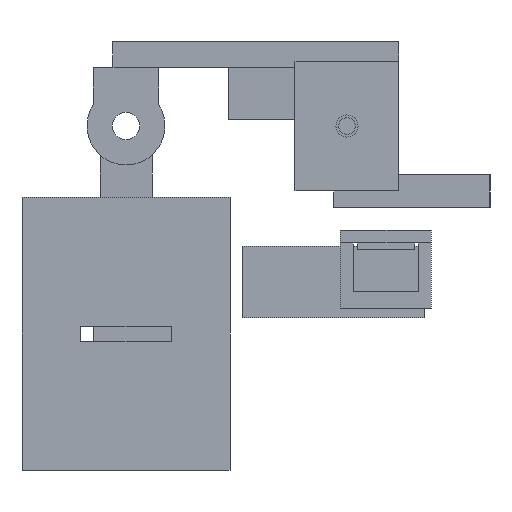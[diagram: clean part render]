
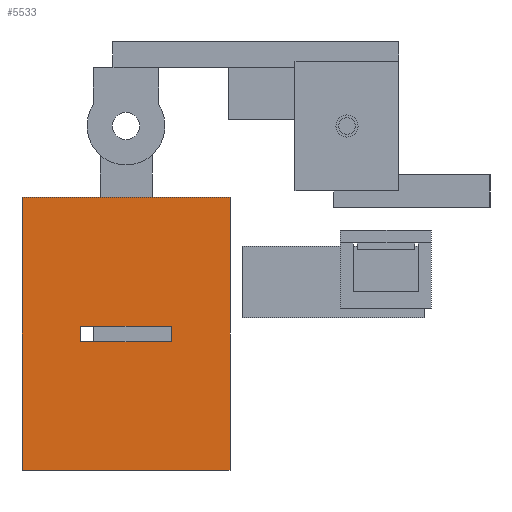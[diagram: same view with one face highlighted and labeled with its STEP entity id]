
A CAD part, left-side view. The second image highlights one B-rep face of the part: STEP entity #5533.
In plain terms, the highlighted planar face has unit normal (-1, 0, 0).
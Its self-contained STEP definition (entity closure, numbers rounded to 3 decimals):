
#5533 = ADVANCED_FACE('',(#5534,#5653),#5548,.F.);
#5534 = FACE_BOUND('',#5535,.F.);
#5535 = EDGE_LOOP('',(#5536,#5571,#5599,#5627));
#5536 = ORIENTED_EDGE('',*,*,#5537,.F.);
#5537 = EDGE_CURVE('',#5538,#5540,#5542,.T.);
#5538 = VERTEX_POINT('',#5539);
#5539 = CARTESIAN_POINT('',(5.,18.,-13.));
#5540 = VERTEX_POINT('',#5541);
#5541 = CARTESIAN_POINT('',(5.,18.,29.));
#5542 = SURFACE_CURVE('',#5543,(#5547,#5559),.PCURVE_S1.);
#5543 = LINE('',#5544,#5545);
#5544 = CARTESIAN_POINT('',(5.,18.,-13.));
#5545 = VECTOR('',#5546,1.);
#5546 = DIRECTION('',(0.,0.,1.));
#5547 = PCURVE('',#5548,#5553);
#5548 = PLANE('',#5549);
#5549 = AXIS2_PLACEMENT_3D('',#5550,#5551,#5552);
#5550 = CARTESIAN_POINT('',(5.,18.,-13.));
#5551 = DIRECTION('',(1.,0.,0.));
#5552 = DIRECTION('',(0.,0.,1.));
#5553 = DEFINITIONAL_REPRESENTATION('',(#5554),#5558);
#5554 = LINE('',#5555,#5556);
#5555 = CARTESIAN_POINT('',(0.,0.));
#5556 = VECTOR('',#5557,1.);
#5557 = DIRECTION('',(1.,0.));
#5558 = ( GEOMETRIC_REPRESENTATION_CONTEXT(2) 
PARAMETRIC_REPRESENTATION_CONTEXT() REPRESENTATION_CONTEXT('2D SPACE',''
  ) );
#5559 = PCURVE('',#5560,#5565);
#5560 = PLANE('',#5561);
#5561 = AXIS2_PLACEMENT_3D('',#5562,#5563,#5564);
#5562 = CARTESIAN_POINT('',(5.,18.,-13.));
#5563 = DIRECTION('',(0.,1.,0.));
#5564 = DIRECTION('',(0.,0.,1.));
#5565 = DEFINITIONAL_REPRESENTATION('',(#5566),#5570);
#5566 = LINE('',#5567,#5568);
#5567 = CARTESIAN_POINT('',(0.,0.));
#5568 = VECTOR('',#5569,1.);
#5569 = DIRECTION('',(1.,0.));
#5570 = ( GEOMETRIC_REPRESENTATION_CONTEXT(2) 
PARAMETRIC_REPRESENTATION_CONTEXT() REPRESENTATION_CONTEXT('2D SPACE',''
  ) );
#5571 = ORIENTED_EDGE('',*,*,#5572,.T.);
#5572 = EDGE_CURVE('',#5538,#5573,#5575,.T.);
#5573 = VERTEX_POINT('',#5574);
#5574 = CARTESIAN_POINT('',(5.,50.,-13.));
#5575 = SURFACE_CURVE('',#5576,(#5580,#5587),.PCURVE_S1.);
#5576 = LINE('',#5577,#5578);
#5577 = CARTESIAN_POINT('',(5.,18.,-13.));
#5578 = VECTOR('',#5579,1.);
#5579 = DIRECTION('',(0.,1.,0.));
#5580 = PCURVE('',#5548,#5581);
#5581 = DEFINITIONAL_REPRESENTATION('',(#5582),#5586);
#5582 = LINE('',#5583,#5584);
#5583 = CARTESIAN_POINT('',(0.,0.));
#5584 = VECTOR('',#5585,1.);
#5585 = DIRECTION('',(0.,-1.));
#5586 = ( GEOMETRIC_REPRESENTATION_CONTEXT(2) 
PARAMETRIC_REPRESENTATION_CONTEXT() REPRESENTATION_CONTEXT('2D SPACE',''
  ) );
#5587 = PCURVE('',#5588,#5593);
#5588 = PLANE('',#5589);
#5589 = AXIS2_PLACEMENT_3D('',#5590,#5591,#5592);
#5590 = CARTESIAN_POINT('',(5.,18.,-13.));
#5591 = DIRECTION('',(0.,0.,1.));
#5592 = DIRECTION('',(1.,0.,0.));
#5593 = DEFINITIONAL_REPRESENTATION('',(#5594),#5598);
#5594 = LINE('',#5595,#5596);
#5595 = CARTESIAN_POINT('',(0.,0.));
#5596 = VECTOR('',#5597,1.);
#5597 = DIRECTION('',(0.,1.));
#5598 = ( GEOMETRIC_REPRESENTATION_CONTEXT(2) 
PARAMETRIC_REPRESENTATION_CONTEXT() REPRESENTATION_CONTEXT('2D SPACE',''
  ) );
#5599 = ORIENTED_EDGE('',*,*,#5600,.T.);
#5600 = EDGE_CURVE('',#5573,#5601,#5603,.T.);
#5601 = VERTEX_POINT('',#5602);
#5602 = CARTESIAN_POINT('',(5.,50.,29.));
#5603 = SURFACE_CURVE('',#5604,(#5608,#5615),.PCURVE_S1.);
#5604 = LINE('',#5605,#5606);
#5605 = CARTESIAN_POINT('',(5.,50.,-13.));
#5606 = VECTOR('',#5607,1.);
#5607 = DIRECTION('',(0.,0.,1.));
#5608 = PCURVE('',#5548,#5609);
#5609 = DEFINITIONAL_REPRESENTATION('',(#5610),#5614);
#5610 = LINE('',#5611,#5612);
#5611 = CARTESIAN_POINT('',(0.,-32.));
#5612 = VECTOR('',#5613,1.);
#5613 = DIRECTION('',(1.,0.));
#5614 = ( GEOMETRIC_REPRESENTATION_CONTEXT(2) 
PARAMETRIC_REPRESENTATION_CONTEXT() REPRESENTATION_CONTEXT('2D SPACE',''
  ) );
#5615 = PCURVE('',#5616,#5621);
#5616 = PLANE('',#5617);
#5617 = AXIS2_PLACEMENT_3D('',#5618,#5619,#5620);
#5618 = CARTESIAN_POINT('',(5.,50.,-13.));
#5619 = DIRECTION('',(0.,1.,0.));
#5620 = DIRECTION('',(0.,0.,1.));
#5621 = DEFINITIONAL_REPRESENTATION('',(#5622),#5626);
#5622 = LINE('',#5623,#5624);
#5623 = CARTESIAN_POINT('',(0.,0.));
#5624 = VECTOR('',#5625,1.);
#5625 = DIRECTION('',(1.,0.));
#5626 = ( GEOMETRIC_REPRESENTATION_CONTEXT(2) 
PARAMETRIC_REPRESENTATION_CONTEXT() REPRESENTATION_CONTEXT('2D SPACE',''
  ) );
#5627 = ORIENTED_EDGE('',*,*,#5628,.F.);
#5628 = EDGE_CURVE('',#5540,#5601,#5629,.T.);
#5629 = SURFACE_CURVE('',#5630,(#5634,#5641),.PCURVE_S1.);
#5630 = LINE('',#5631,#5632);
#5631 = CARTESIAN_POINT('',(5.,18.,29.));
#5632 = VECTOR('',#5633,1.);
#5633 = DIRECTION('',(0.,1.,0.));
#5634 = PCURVE('',#5548,#5635);
#5635 = DEFINITIONAL_REPRESENTATION('',(#5636),#5640);
#5636 = LINE('',#5637,#5638);
#5637 = CARTESIAN_POINT('',(42.,0.));
#5638 = VECTOR('',#5639,1.);
#5639 = DIRECTION('',(0.,-1.));
#5640 = ( GEOMETRIC_REPRESENTATION_CONTEXT(2) 
PARAMETRIC_REPRESENTATION_CONTEXT() REPRESENTATION_CONTEXT('2D SPACE',''
  ) );
#5641 = PCURVE('',#5642,#5647);
#5642 = PLANE('',#5643);
#5643 = AXIS2_PLACEMENT_3D('',#5644,#5645,#5646);
#5644 = CARTESIAN_POINT('',(5.,18.,29.));
#5645 = DIRECTION('',(0.,0.,1.));
#5646 = DIRECTION('',(1.,0.,0.));
#5647 = DEFINITIONAL_REPRESENTATION('',(#5648),#5652);
#5648 = LINE('',#5649,#5650);
#5649 = CARTESIAN_POINT('',(0.,0.));
#5650 = VECTOR('',#5651,1.);
#5651 = DIRECTION('',(0.,1.));
#5652 = ( GEOMETRIC_REPRESENTATION_CONTEXT(2) 
PARAMETRIC_REPRESENTATION_CONTEXT() REPRESENTATION_CONTEXT('2D SPACE',''
  ) );
#5653 = FACE_BOUND('',#5654,.F.);
#5654 = EDGE_LOOP('',(#5655,#5683,#5709,#5735));
#5655 = ORIENTED_EDGE('',*,*,#5656,.T.);
#5656 = EDGE_CURVE('',#5657,#5659,#5661,.T.);
#5657 = VERTEX_POINT('',#5658);
#5658 = CARTESIAN_POINT('',(5.,41.,6.8));
#5659 = VERTEX_POINT('',#5660);
#5660 = CARTESIAN_POINT('',(5.,27.,6.8));
#5661 = SURFACE_CURVE('',#5662,(#5666,#5672),.PCURVE_S1.);
#5662 = LINE('',#5663,#5664);
#5663 = CARTESIAN_POINT('',(5.,22.5,6.8));
#5664 = VECTOR('',#5665,1.);
#5665 = DIRECTION('',(0.,-1.,0.));
#5666 = PCURVE('',#5548,#5667);
#5667 = DEFINITIONAL_REPRESENTATION('',(#5668),#5671);
#5668 = B_SPLINE_CURVE_WITH_KNOTS('',1,(#5669,#5670),.UNSPECIFIED.,.F.,
  .F.,(2,2),(-18.5,-4.5),.PIECEWISE_BEZIER_KNOTS.);
#5669 = CARTESIAN_POINT('',(19.8,-23.));
#5670 = CARTESIAN_POINT('',(19.8,-9.));
#5671 = ( GEOMETRIC_REPRESENTATION_CONTEXT(2) 
PARAMETRIC_REPRESENTATION_CONTEXT() REPRESENTATION_CONTEXT('2D SPACE',''
  ) );
#5672 = PCURVE('',#5673,#5678);
#5673 = PLANE('',#5674);
#5674 = AXIS2_PLACEMENT_3D('',#5675,#5676,#5677);
#5675 = CARTESIAN_POINT('',(4.,27.,6.8));
#5676 = DIRECTION('',(0.,0.,1.));
#5677 = DIRECTION('',(1.,0.,0.));
#5678 = DEFINITIONAL_REPRESENTATION('',(#5679),#5682);
#5679 = B_SPLINE_CURVE_WITH_KNOTS('',1,(#5680,#5681),.UNSPECIFIED.,.F.,
  .F.,(2,2),(-18.5,-4.5),.PIECEWISE_BEZIER_KNOTS.);
#5680 = CARTESIAN_POINT('',(1.,14.));
#5681 = CARTESIAN_POINT('',(1.,0.));
#5682 = ( GEOMETRIC_REPRESENTATION_CONTEXT(2) 
PARAMETRIC_REPRESENTATION_CONTEXT() REPRESENTATION_CONTEXT('2D SPACE',''
  ) );
#5683 = ORIENTED_EDGE('',*,*,#5684,.T.);
#5684 = EDGE_CURVE('',#5659,#5685,#5687,.T.);
#5685 = VERTEX_POINT('',#5686);
#5686 = CARTESIAN_POINT('',(5.,27.,9.2));
#5687 = SURFACE_CURVE('',#5688,(#5692,#5698),.PCURVE_S1.);
#5688 = LINE('',#5689,#5690);
#5689 = CARTESIAN_POINT('',(5.,27.,-3.1));
#5690 = VECTOR('',#5691,1.);
#5691 = DIRECTION('',(0.,0.,1.));
#5692 = PCURVE('',#5548,#5693);
#5693 = DEFINITIONAL_REPRESENTATION('',(#5694),#5697);
#5694 = B_SPLINE_CURVE_WITH_KNOTS('',1,(#5695,#5696),.UNSPECIFIED.,.F.,
  .F.,(2,2),(9.9,12.3),.PIECEWISE_BEZIER_KNOTS.);
#5695 = CARTESIAN_POINT('',(19.8,-9.));
#5696 = CARTESIAN_POINT('',(22.2,-9.));
#5697 = ( GEOMETRIC_REPRESENTATION_CONTEXT(2) 
PARAMETRIC_REPRESENTATION_CONTEXT() REPRESENTATION_CONTEXT('2D SPACE',''
  ) );
#5698 = PCURVE('',#5699,#5704);
#5699 = PLANE('',#5700);
#5700 = AXIS2_PLACEMENT_3D('',#5701,#5702,#5703);
#5701 = CARTESIAN_POINT('',(4.,27.,6.8));
#5702 = DIRECTION('',(0.,1.,0.));
#5703 = DIRECTION('',(0.,0.,1.));
#5704 = DEFINITIONAL_REPRESENTATION('',(#5705),#5708);
#5705 = B_SPLINE_CURVE_WITH_KNOTS('',1,(#5706,#5707),.UNSPECIFIED.,.F.,
  .F.,(2,2),(9.9,12.3),.PIECEWISE_BEZIER_KNOTS.);
#5706 = CARTESIAN_POINT('',(0.,1.));
#5707 = CARTESIAN_POINT('',(2.4,1.));
#5708 = ( GEOMETRIC_REPRESENTATION_CONTEXT(2) 
PARAMETRIC_REPRESENTATION_CONTEXT() REPRESENTATION_CONTEXT('2D SPACE',''
  ) );
#5709 = ORIENTED_EDGE('',*,*,#5710,.F.);
#5710 = EDGE_CURVE('',#5711,#5685,#5713,.T.);
#5711 = VERTEX_POINT('',#5712);
#5712 = CARTESIAN_POINT('',(5.,41.,9.2));
#5713 = SURFACE_CURVE('',#5714,(#5718,#5724),.PCURVE_S1.);
#5714 = LINE('',#5715,#5716);
#5715 = CARTESIAN_POINT('',(5.,22.5,9.2));
#5716 = VECTOR('',#5717,1.);
#5717 = DIRECTION('',(0.,-1.,0.));
#5718 = PCURVE('',#5548,#5719);
#5719 = DEFINITIONAL_REPRESENTATION('',(#5720),#5723);
#5720 = B_SPLINE_CURVE_WITH_KNOTS('',1,(#5721,#5722),.UNSPECIFIED.,.F.,
  .F.,(2,2),(-18.5,-4.5),.PIECEWISE_BEZIER_KNOTS.);
#5721 = CARTESIAN_POINT('',(22.2,-23.));
#5722 = CARTESIAN_POINT('',(22.2,-9.));
#5723 = ( GEOMETRIC_REPRESENTATION_CONTEXT(2) 
PARAMETRIC_REPRESENTATION_CONTEXT() REPRESENTATION_CONTEXT('2D SPACE',''
  ) );
#5724 = PCURVE('',#5725,#5730);
#5725 = PLANE('',#5726);
#5726 = AXIS2_PLACEMENT_3D('',#5727,#5728,#5729);
#5727 = CARTESIAN_POINT('',(4.,27.,9.2));
#5728 = DIRECTION('',(0.,0.,1.));
#5729 = DIRECTION('',(1.,0.,0.));
#5730 = DEFINITIONAL_REPRESENTATION('',(#5731),#5734);
#5731 = B_SPLINE_CURVE_WITH_KNOTS('',1,(#5732,#5733),.UNSPECIFIED.,.F.,
  .F.,(2,2),(-18.5,-4.5),.PIECEWISE_BEZIER_KNOTS.);
#5732 = CARTESIAN_POINT('',(1.,14.));
#5733 = CARTESIAN_POINT('',(1.,0.));
#5734 = ( GEOMETRIC_REPRESENTATION_CONTEXT(2) 
PARAMETRIC_REPRESENTATION_CONTEXT() REPRESENTATION_CONTEXT('2D SPACE',''
  ) );
#5735 = ORIENTED_EDGE('',*,*,#5736,.F.);
#5736 = EDGE_CURVE('',#5657,#5711,#5737,.T.);
#5737 = SURFACE_CURVE('',#5738,(#5742,#5748),.PCURVE_S1.);
#5738 = LINE('',#5739,#5740);
#5739 = CARTESIAN_POINT('',(5.,41.,-3.1));
#5740 = VECTOR('',#5741,1.);
#5741 = DIRECTION('',(0.,0.,1.));
#5742 = PCURVE('',#5548,#5743);
#5743 = DEFINITIONAL_REPRESENTATION('',(#5744),#5747);
#5744 = B_SPLINE_CURVE_WITH_KNOTS('',1,(#5745,#5746),.UNSPECIFIED.,.F.,
  .F.,(2,2),(9.9,12.3),.PIECEWISE_BEZIER_KNOTS.);
#5745 = CARTESIAN_POINT('',(19.8,-23.));
#5746 = CARTESIAN_POINT('',(22.2,-23.));
#5747 = ( GEOMETRIC_REPRESENTATION_CONTEXT(2) 
PARAMETRIC_REPRESENTATION_CONTEXT() REPRESENTATION_CONTEXT('2D SPACE',''
  ) );
#5748 = PCURVE('',#5749,#5754);
#5749 = PLANE('',#5750);
#5750 = AXIS2_PLACEMENT_3D('',#5751,#5752,#5753);
#5751 = CARTESIAN_POINT('',(4.,41.,6.8));
#5752 = DIRECTION('',(0.,1.,0.));
#5753 = DIRECTION('',(0.,0.,1.));
#5754 = DEFINITIONAL_REPRESENTATION('',(#5755),#5758);
#5755 = B_SPLINE_CURVE_WITH_KNOTS('',1,(#5756,#5757),.UNSPECIFIED.,.F.,
  .F.,(2,2),(9.9,12.3),.PIECEWISE_BEZIER_KNOTS.);
#5756 = CARTESIAN_POINT('',(0.,1.));
#5757 = CARTESIAN_POINT('',(2.4,1.));
#5758 = ( GEOMETRIC_REPRESENTATION_CONTEXT(2) 
PARAMETRIC_REPRESENTATION_CONTEXT() REPRESENTATION_CONTEXT('2D SPACE',''
  ) );
